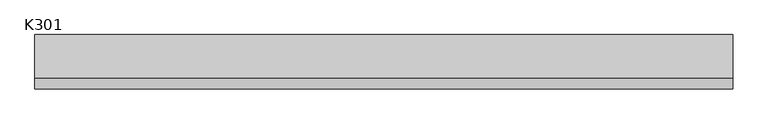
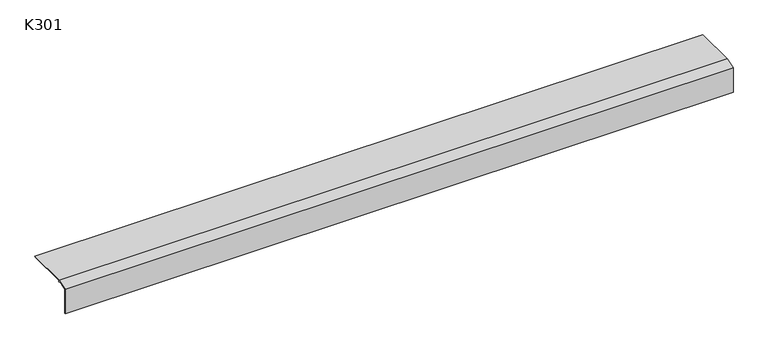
"""IFC4 building model written with IfcOpenShell, lengths in millimetres: proxy geometry, K301 Profil okapowy prosty : K301."""

from ifc_helpers import new_model, si_unit, frame, origin, place, context, project, spatial, polyline, outline, extrude, source, transform, mapped, element, save


def k301_5b34aea1(model_context):
    return source(origin(), model_context, "Body", "SweptSolid", [
        extrude(outline(polyline([(-21.5, -6.0), (-1.5, 0.0), (78.5, 0.0), (77.0164314, -1.5004157), (0.0, -1.5004157), (0.0, -4.5), (-1.5, -4.5), (-1.5, -1.566046), (-20.0, -7.116046), (-20.0, -55.4735048), (-21.5, -56.0), (-21.5, -6.0)])), frame((0.0, 0.0, 0.0), z_axis=(1.0, 0.0, 0.0), x_axis=(0.0, 1.0, 0.0)), (0.0, 0.0, 1.0), 1279.8002884),
    ])


if __name__ == "__main__":
    model = new_model("IFC4")
    model_context = context("Model", 3, world=origin())
    ifc_project = project(units=[si_unit("LENGTHUNIT", "METRE", prefix="MILLI")], contexts=[model_context])
    site = spatial("IfcSite", under=ifc_project)
    building = spatial("IfcBuilding", under=site)
    placement = place(None, origin())
    k301_shape = k301_5b34aea1(model_context)
    element("IfcBuildingElementProxy", 1, Name="K301 Profil okapowy prosty : K301", ObjectType="K301 Profil okapowy prosty : K301", at=placement, inside=building, context=model_context, shape_type="MappedRepresentation", body=[
        mapped(k301_shape, transform((0.0, 0.0, 0.0), x_axis=(1.0, 0.0, 0.0), y_axis=(0.0, 1.0, 0.0), z_axis=(0.0, 0.0, 1.0))),
    ])
    save(model, "model.ifc")
